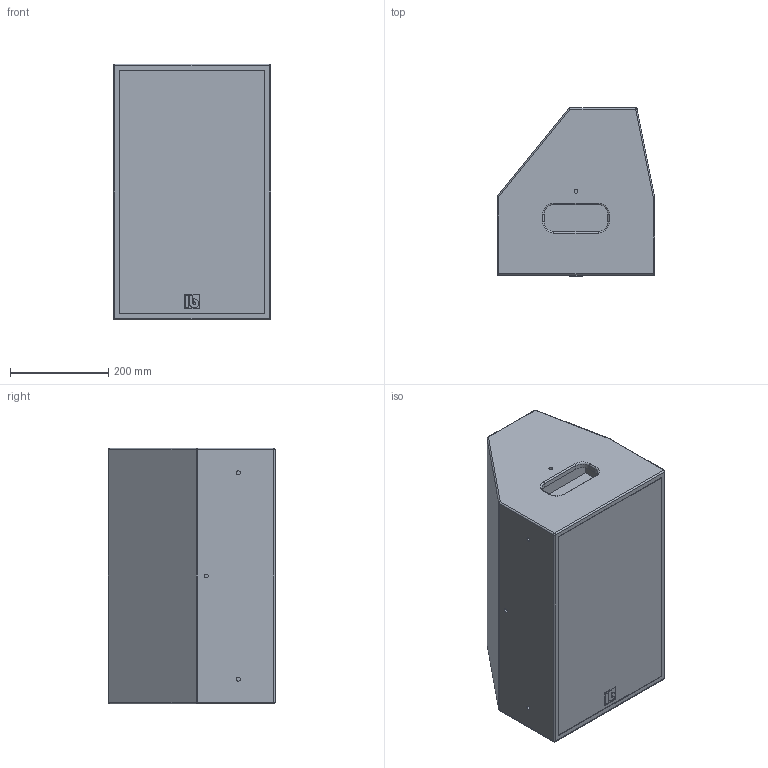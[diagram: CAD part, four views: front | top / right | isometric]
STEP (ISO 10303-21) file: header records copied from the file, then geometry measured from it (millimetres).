
FILE_DESCRIPTION(/* description */ (''),/* implementation_level */ '2;1');
FILE_NAME(/* name */ 'F10.stp',/* time_stamp */ '2024-08-21T16:31:45+02:00',/* author */ ('d.streicher'),/* organization */ (''),/* preprocessor_version */ 'ST-DEVELOPER v20',/* originating_system */ 'Autodesk Inventor 2025',/* authorisation */ '');
FILE_SCHEMA (('AUTOMOTIVE_DESIGN { 1 0 10303 214 3 1 1 }'));
Length unit declared in the file: millimetre
Products named in the file (1): F10
Bounding box: 320 x 341.5 x 520 mm (x, y, z)
Volume: 46332103.6 mm3; surface area: 918967 mm2
Topology: 1 solids, 1 shells, 164 faces, 346 edges, 208 vertices
Faces by surface type: plane 72, cylinder 64, torus 16, sphere 12
Full cylindrical faces by diameter (mm): 6 x2, 8 x10, 22 x2
Entity records: 4600 total; most frequent: DIRECTION 820, CARTESIAN_POINT 719, ORIENTED_EDGE 692, EDGE_CURVE 346, AXIS2_PLACEMENT_3D 309, VERTEX_POINT 208, LINE 202, VECTOR 202
